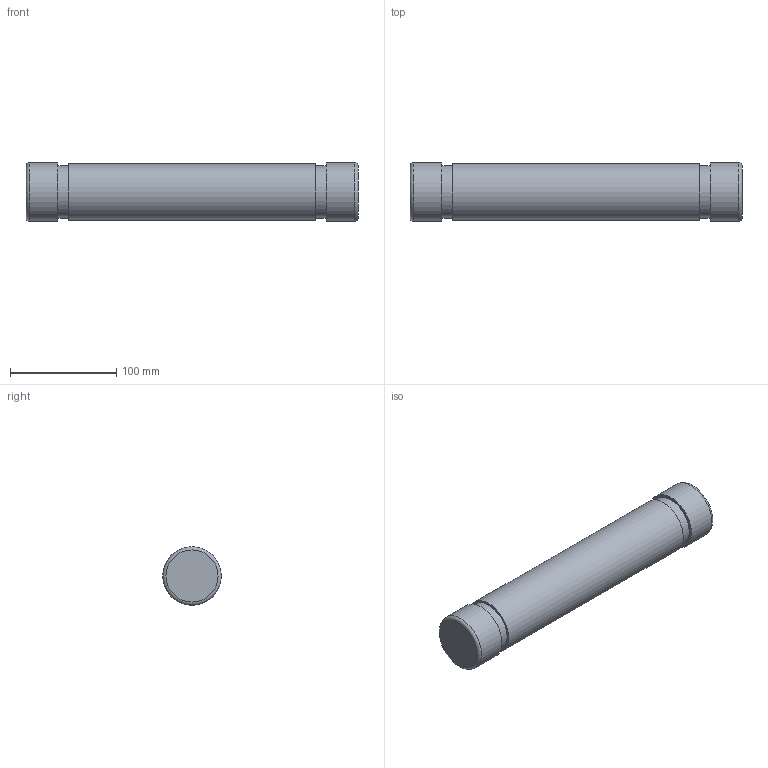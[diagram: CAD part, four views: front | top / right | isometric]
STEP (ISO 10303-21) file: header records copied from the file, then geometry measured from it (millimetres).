
FILE_DESCRIPTION (( 'STEP AP214' ), '1' );
FILE_NAME ('眈襝鍙 玾-1.1-6.STEP', '2023-03-03T10:47:10', ( '' ), ( '' ), 'SwSTEP 2.0', 'SolidWorks 2018', '' );
FILE_SCHEMA (( 'AUTOMOTIVE_DESIGN' ));
Length unit declared in the file: millimetre
Products named in the file (1): 眈襝鍙 玾-1.1-6
Bounding box: 312 x 55 x 55 mm (x, y, z)
Volume: 402814.1 mm3; surface area: 92905.7 mm2
Topology: 1 solids, 2 shells, 16 faces, 23 edges, 15 vertices
Faces by surface type: plane 8, cylinder 6, torus 2
Full cylindrical faces by diameter (mm): 35 x1, 49 x2, 53 x1, 55 x2
Entity records: 336 total; most frequent: DIRECTION 62, CARTESIAN_POINT 45, AXIS2_PLACEMENT_3D 31, EDGE_LOOP 28, ORIENTED_EDGE 28, FACE_OUTER_BOUND 24, ADVANCED_FACE 16, EDGE_CURVE 14
